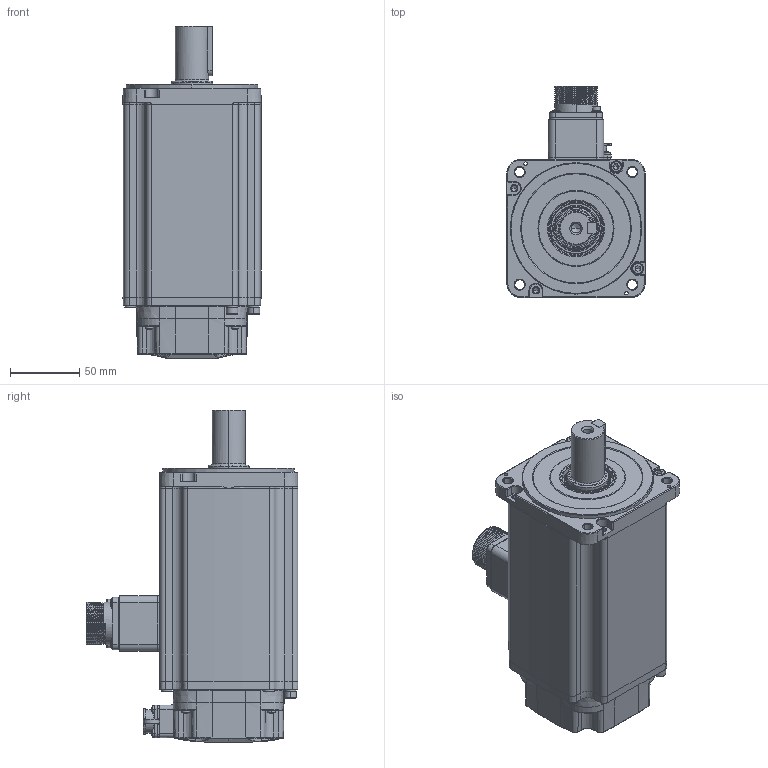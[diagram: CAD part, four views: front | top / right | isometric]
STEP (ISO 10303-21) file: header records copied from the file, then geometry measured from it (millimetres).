
FILE_DESCRIPTION (( 'STEP AP214' ), '1' );
FILE_NAME ('UMM-0015CAB_EAB-B5.STEP', '2024-08-20T08:15:38', ( '' ), ( '' ), 'SwSTEP 2.0', 'SolidWorks 2022', '' );
FILE_SCHEMA (( 'AUTOMOTIVE_DESIGN' ));
Length unit declared in the file: millimetre
Products named in the file (1): UMM-0015CAB_EAB-B5
Bounding box: 100 x 153.05 x 240 mm (x, y, z)
Volume: 494294.3 mm3; surface area: 240187.2 mm2
Topology: 45 solids, 46 shells, 2029 faces, 5170 edges, 3289 vertices
Faces by surface type: cylinder 751, plane 652, bspline 348, cone 268, sphere 10
Entity records: 76154 total; most frequent: CARTESIAN_POINT 29164, ORIENTED_EDGE 10152, DIRECTION 9131, EDGE_CURVE 5076, AXIS2_PLACEMENT_3D 3554, VERTEX_POINT 3279, EDGE_LOOP 2327, FACE_OUTER_BOUND 2029
